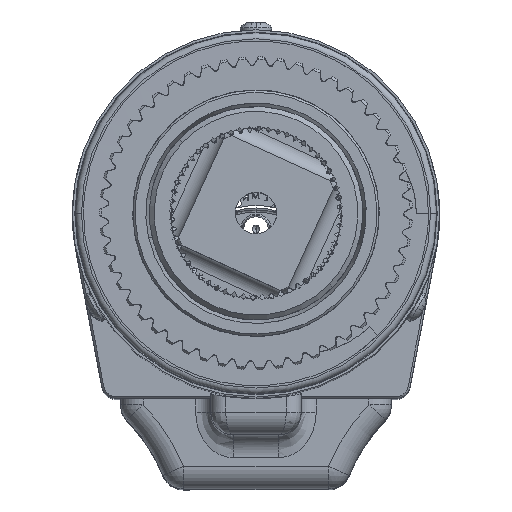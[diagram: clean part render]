
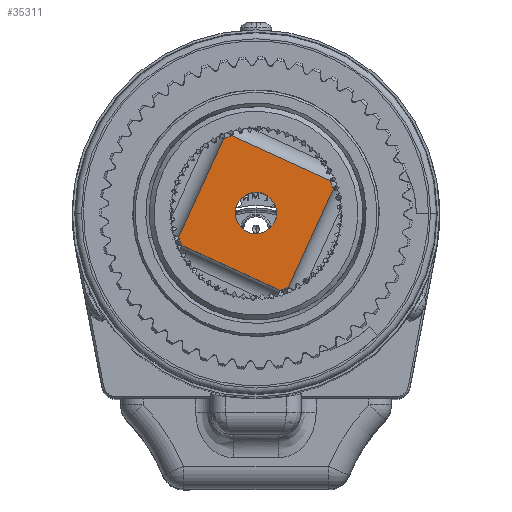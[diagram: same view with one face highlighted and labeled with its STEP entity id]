
A CAD part, top view. The second image highlights one B-rep face of the part: STEP entity #35311.
In plain terms, the highlighted planar face has unit normal (0, 0, 1).
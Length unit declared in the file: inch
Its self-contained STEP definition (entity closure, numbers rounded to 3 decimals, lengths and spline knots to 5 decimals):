
#3854 = VERTEX_POINT ( 'NONE', #148649 ) ;
#3888 = CARTESIAN_POINT ( 'NONE',  ( -0.26651, 0.61472, 7.15 ) ) ;
#4947 = LINE ( 'NONE', #116453, #36564 ) ;
#5808 = VERTEX_POINT ( 'NONE', #3888 ) ;
#7175 = VERTEX_POINT ( 'NONE', #148918 ) ;
#7442 = VERTEX_POINT ( 'NONE', #90662 ) ;
#8369 = CARTESIAN_POINT ( 'NONE',  ( -0.1991, 0.63973, 7.15 ) ) ;
#9367 = VERTEX_POINT ( 'NONE', #90993 ) ;
#9502 = EDGE_CURVE ( 'NONE', #3854, #9367, #67626, .T. ) ;
#9589 = CIRCLE ( 'NONE', #80158, 0.17187 ) ;
#10703 = DIRECTION ( 'NONE',  ( 0., 0., 1. ) ) ;
#14392 = CARTESIAN_POINT ( 'NONE',  ( 0., 0., 7.15 ) ) ;
#17489 = EDGE_CURVE ( 'NONE', #7442, #3854, #68338, .T. ) ;
#23323 = VERTEX_POINT ( 'NONE', #37349 ) ;
#24336 = EDGE_CURVE ( 'NONE', #39576, #23323, #9589, .T. ) ;
#24786 = DIRECTION ( 'NONE',  ( 0., 0., -1. ) ) ;
#26373 = DIRECTION ( 'NONE',  ( -0.909, 0.417, 0. ) ) ;
#28206 = EDGE_CURVE ( 'NONE', #28526, #5808, #115103, .T. ) ;
#28434 = EDGE_CURVE ( 'NONE', #5808, #7442, #144471, .T. ) ;
#28526 = VERTEX_POINT ( 'NONE', #8369 ) ;
#28663 = CARTESIAN_POINT ( 'NONE',  ( -0.45312, 0.20781, 7.15 ) ) ;
#30016 = AXIS2_PLACEMENT_3D ( 'NONE', #58064, #140437, #69927 ) ;
#34332 = EDGE_CURVE ( 'NONE', #7175, #153290, #119446, .T. ) ;
#35311 = ADVANCED_FACE ( 'NONE', ( #133759, #74840 ), #118715, .F. ) ;
#36508 = CARTESIAN_POINT ( 'NONE',  ( 0., 0., 7.15 ) ) ;
#36560 = EDGE_CURVE ( 'NONE', #23323, #39576, #144455, .T. ) ;
#36564 = VECTOR ( 'NONE', #140086, 39.37008 ) ;
#36974 = AXIS2_PLACEMENT_3D ( 'NONE', #112549, #41901, #124417 ) ;
#37349 = CARTESIAN_POINT ( 'NONE',  ( 0.15623, -0.07165, 7.15 ) ) ;
#38456 = EDGE_CURVE ( 'NONE', #153290, #145534, #68854, .T. ) ;
#39576 = VERTEX_POINT ( 'NONE', #71403 ) ;
#41901 = DIRECTION ( 'NONE',  ( 0., 0., 1. ) ) ;
#44088 = EDGE_CURVE ( 'NONE', #145534, #28526, #4947, .T. ) ;
#46957 = ORIENTED_EDGE ( 'NONE', *, *, #24336, .F. ) ;
#47817 = ORIENTED_EDGE ( 'NONE', *, *, #36560, .F. ) ;
#48412 = DIRECTION ( 'NONE',  ( -0.909, 0.417, 0. ) ) ;
#50845 = CARTESIAN_POINT ( 'NONE',  ( 0., 0., 7.15 ) ) ;
#52770 = ORIENTED_EDGE ( 'NONE', *, *, #28206, .T. ) ;
#54210 = VECTOR ( 'NONE', #123084, 39.37008 ) ;
#55382 = CARTESIAN_POINT ( 'NONE',  ( 0.45312, -0.20781, 7.15 ) ) ;
#56460 = AXIS2_PLACEMENT_3D ( 'NONE', #95451, #24786, #107331 ) ;
#58064 = CARTESIAN_POINT ( 'NONE',  ( 0., 0., 7.15 ) ) ;
#58808 = CARTESIAN_POINT ( 'NONE',  ( 0.63973, 0.1991, 7.15 ) ) ;
#62660 = DIRECTION ( 'NONE',  ( -0.909, 0.417, 0. ) ) ;
#63070 = CARTESIAN_POINT ( 'NONE',  ( 0.61472, 0.26651, 7.15 ) ) ;
#64097 = ORIENTED_EDGE ( 'NONE', *, *, #28434, .T. ) ;
#65607 = ORIENTED_EDGE ( 'NONE', *, *, #17489, .T. ) ;
#66631 = ORIENTED_EDGE ( 'NONE', *, *, #9502, .T. ) ;
#67205 = DIRECTION ( 'NONE',  ( 0.417, 0.909, 0. ) ) ;
#67501 = VECTOR ( 'NONE', #77156, 39.37008 ) ;
#67626 = LINE ( 'NONE', #82321, #67501 ) ;
#68338 = CIRCLE ( 'NONE', #30016, 0.67 ) ;
#68563 = CIRCLE ( 'NONE', #140381, 0.67 ) ;
#68854 = CIRCLE ( 'NONE', #36974, 0.67 ) ;
#69927 = DIRECTION ( 'NONE',  ( -0.909, 0.417, 0. ) ) ;
#70354 = ORIENTED_EDGE ( 'NONE', *, *, #145144, .T. ) ;
#71403 = CARTESIAN_POINT ( 'NONE',  ( -0.15623, 0.07165, 7.15 ) ) ;
#73375 = AXIS2_PLACEMENT_3D ( 'NONE', #81539, #10703, #93380 ) ;
#74840 = FACE_OUTER_BOUND ( 'NONE', #84153, .T. ) ;
#75669 = AXIS2_PLACEMENT_3D ( 'NONE', #36508, #119000, #48412 ) ;
#77156 = DIRECTION ( 'NONE',  ( 0.909, -0.417, 0. ) ) ;
#80158 = AXIS2_PLACEMENT_3D ( 'NONE', #14392, #97046, #26373 ) ;
#81539 = CARTESIAN_POINT ( 'NONE',  ( 0., 0., 7.15 ) ) ;
#82321 = CARTESIAN_POINT ( 'NONE',  ( -0.20781, -0.45312, 7.15 ) ) ;
#83580 = ORIENTED_EDGE ( 'NONE', *, *, #34332, .T. ) ;
#84153 = EDGE_LOOP ( 'NONE', ( #52770, #64097, #65607, #66631, #70354, #83580, #87147, #87708 ) ) ;
#87147 = ORIENTED_EDGE ( 'NONE', *, *, #38456, .T. ) ;
#87708 = ORIENTED_EDGE ( 'NONE', *, *, #44088, .T. ) ;
#88056 = VECTOR ( 'NONE', #67205, 39.37008 ) ;
#90662 = CARTESIAN_POINT ( 'NONE',  ( -0.63973, -0.1991, 7.15 ) ) ;
#90993 = CARTESIAN_POINT ( 'NONE',  ( 0.1991, -0.63973, 7.15 ) ) ;
#93380 = DIRECTION ( 'NONE',  ( -0.909, 0.417, 0. ) ) ;
#95451 = CARTESIAN_POINT ( 'NONE',  ( -0.07165, -0.15623, 7.15 ) ) ;
#97046 = DIRECTION ( 'NONE',  ( 0., 0., 1. ) ) ;
#107331 = DIRECTION ( 'NONE',  ( 0.909, -0.417, 0. ) ) ;
#112549 = CARTESIAN_POINT ( 'NONE',  ( 0., 0., 7.15 ) ) ;
#115103 = CIRCLE ( 'NONE', #75669, 0.67 ) ;
#116453 = CARTESIAN_POINT ( 'NONE',  ( 0.20781, 0.45312, 7.15 ) ) ;
#118715 = PLANE ( 'NONE',  #56460 ) ;
#119000 = DIRECTION ( 'NONE',  ( 0., 0., 1. ) ) ;
#119446 = LINE ( 'NONE', #55382, #88056 ) ;
#123084 = DIRECTION ( 'NONE',  ( -0.417, -0.909, 0. ) ) ;
#124417 = DIRECTION ( 'NONE',  ( -0.909, 0.417, 0. ) ) ;
#126924 = EDGE_LOOP ( 'NONE', ( #46957, #47817 ) ) ;
#133189 = DIRECTION ( 'NONE',  ( 0., 0., 1. ) ) ;
#133759 = FACE_BOUND ( 'NONE', #126924, .T. ) ;
#140086 = DIRECTION ( 'NONE',  ( -0.909, 0.417, 0. ) ) ;
#140381 = AXIS2_PLACEMENT_3D ( 'NONE', #50845, #133189, #62660 ) ;
#140437 = DIRECTION ( 'NONE',  ( 0., 0., 1. ) ) ;
#144455 = CIRCLE ( 'NONE', #73375, 0.17187 ) ;
#144471 = LINE ( 'NONE', #28663, #54210 ) ;
#145144 = EDGE_CURVE ( 'NONE', #9367, #7175, #68563, .T. ) ;
#145534 = VERTEX_POINT ( 'NONE', #63070 ) ;
#148649 = CARTESIAN_POINT ( 'NONE',  ( -0.61472, -0.26651, 7.15 ) ) ;
#148918 = CARTESIAN_POINT ( 'NONE',  ( 0.26651, -0.61472, 7.15 ) ) ;
#153290 = VERTEX_POINT ( 'NONE', #58808 ) ;
